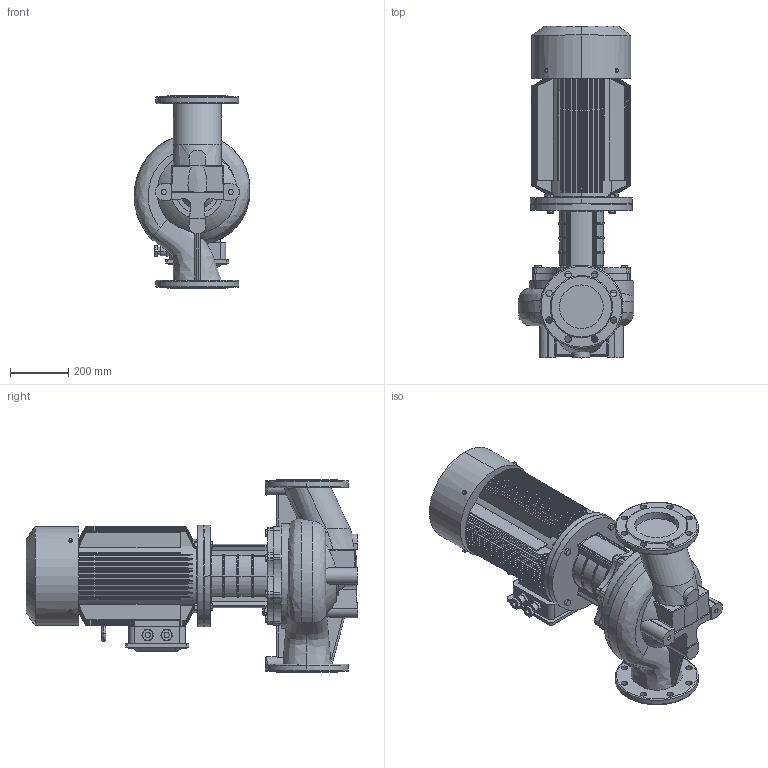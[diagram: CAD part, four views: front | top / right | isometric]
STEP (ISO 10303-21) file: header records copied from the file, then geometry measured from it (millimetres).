
FILE_DESCRIPTION (( 'STEP AP203' ), '1' );
FILE_NAME ('TD150-17G／4.STEP', '2026-09-07T02:58:33', ( '' ), ( '' ), 'SwSTEP 2.0', 'SolidWorks 2020', '' );
FILE_SCHEMA (( 'CONFIG_CONTROL_DESIGN' ));
Length unit declared in the file: millimetre
Products named in the file (1): TD150-17Gㄞ4
Bounding box: 397.41 x 1139 x 660 mm (x, y, z)
Volume: 87765979.9 mm3; surface area: 4568046.4 mm2
Topology: 1 solids, 9 shells, 1787 faces, 4508 edges, 2762 vertices
Faces by surface type: plane 692, cylinder 498, cone 403, torus 116, sphere 46, bspline 32
Entity records: 74890 total; most frequent: CARTESIAN_POINT 32956, ORIENTED_EDGE 8928, DIRECTION 8691, EDGE_CURVE 4464, AXIS2_PLACEMENT_3D 3470, VERTEX_POINT 2754, EDGE_LOOP 1890, ADVANCED_FACE 1787
